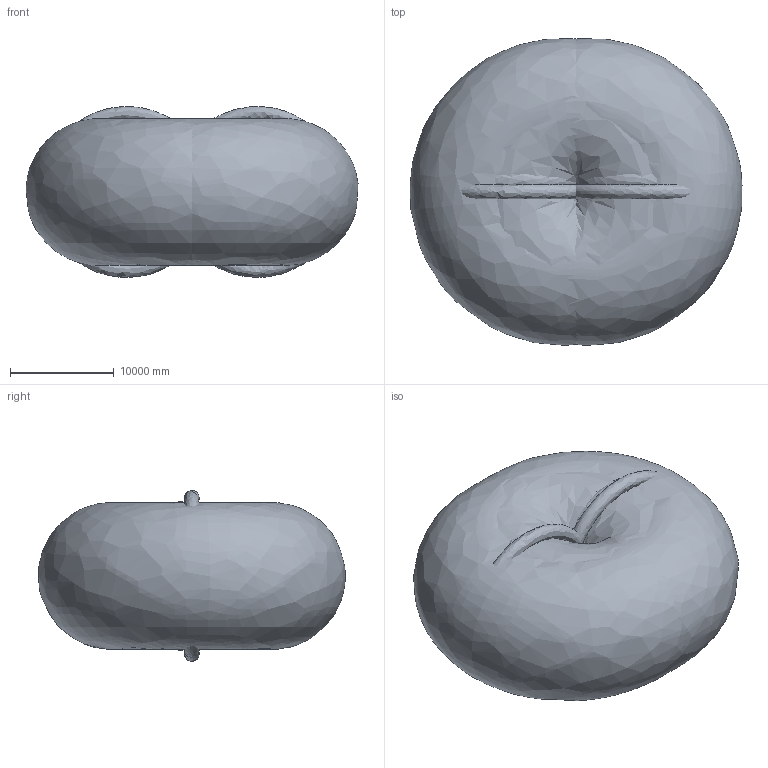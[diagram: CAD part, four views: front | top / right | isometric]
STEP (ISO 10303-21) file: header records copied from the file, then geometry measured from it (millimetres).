
FILE_DESCRIPTION((' '),'2;1');
FILE_NAME( '18514eb59c5a63c3.stp', '2022-12-15T09:34:06', (' '), ('--- Datakit www.datakit.com---'), ' Datakit CrossCadWare V2022.3 Jun 15 2022', 'DATAKIT 2022 (c)', ' ');
FILE_SCHEMA(('CONFIG_CONTROL_DESIGN'));
Length unit declared in the file: millimetre
Products named in the file (1): 18514eb4838833c3
Bounding box: 32032.51 x 29593.49 x 16483.7 mm (x, y, z)
Surface area: 5573046919.8 mm2
Topology: 2 solids, 4 shells, 169 faces, 472 edges, 298 vertices
Faces by surface type: cylinder 38, torus 34, bspline 29, plane 27, offset 24, revolution 13, cone 4
Full cylindrical faces by diameter (mm): 35 x1, 52 x2
Entity records: 51919 total; most frequent: CARTESIAN_POINT 48193, ORIENTED_EDGE 838, DIRECTION 615, EDGE_CURVE 421, VERTEX_POINT 278, AXIS2_PLACEMENT_3D 250, B_SPLINE_CURVE_WITH_KNOTS 202, EDGE_LOOP 191
